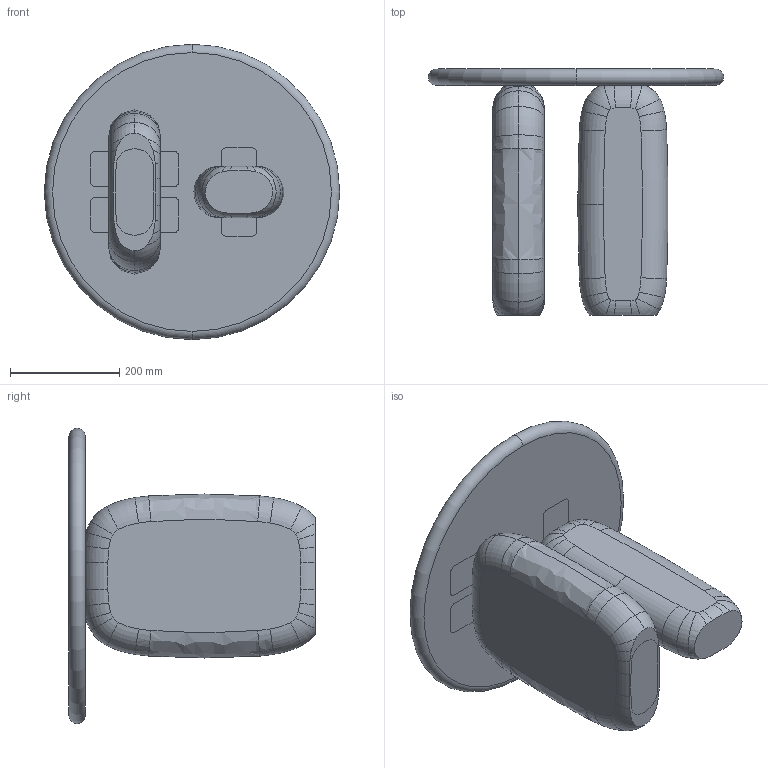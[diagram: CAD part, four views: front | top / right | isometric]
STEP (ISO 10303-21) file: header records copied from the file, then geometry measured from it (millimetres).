
FILE_DESCRIPTION (( 'STEP AP203' ), '1' );
FILE_NAME ('CAIRN SIDETABLE.STEP', '2025-10-15T10:31:09', ( '' ), ( '' ), 'SwSTEP 2.0', 'SolidWorks 2025', '' );
FILE_SCHEMA (( 'CONFIG_CONTROL_DESIGN' ));
Length unit declared in the file: millimetre
Products named in the file (2): CAIRN SIDETABLE; Group1^pomoćni sto CAIRN_defeature
Assembly tree (1 placements, depth 2):
  CAIRN SIDETABLE
    Group1^pomoćni sto CAIRN_defeature
Bounding box: 540 x 450 x 540 mm (x, y, z)
Volume: 22105264.3 mm3; surface area: 967982.7 mm2
Topology: 1 solids, 1 shells, 108 faces, 329 edges, 226 vertices
Faces by surface type: torus 73, plane 15, bspline 12, cylinder 8
Entity records: 6098 total; most frequent: CARTESIAN_POINT 2973, ORIENTED_EDGE 658, DIRECTION 648, EDGE_CURVE 329, AXIS2_PLACEMENT_3D 313, VERTEX_POINT 226, CIRCLE 213, EDGE_LOOP 111
